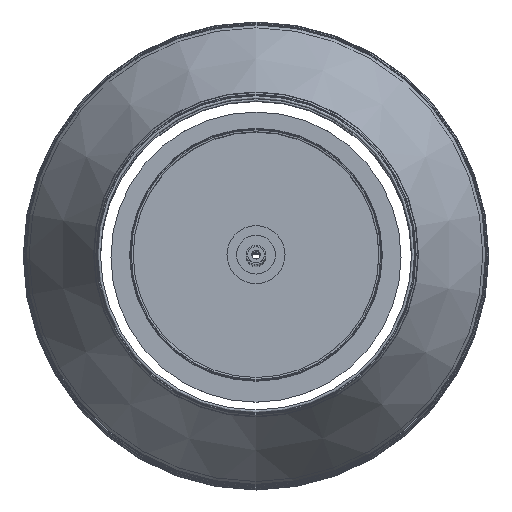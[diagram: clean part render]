
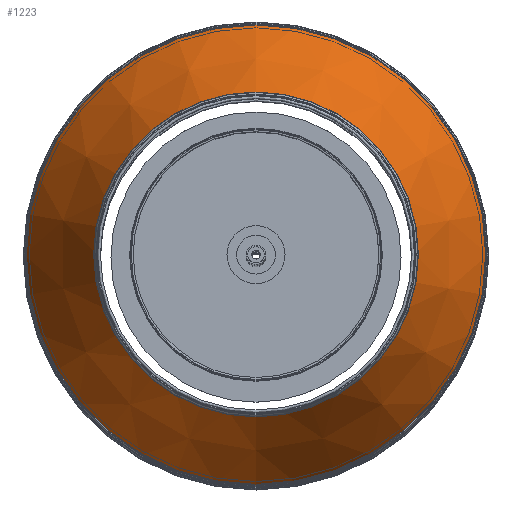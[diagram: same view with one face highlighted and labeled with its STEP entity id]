
A CAD part, top view. The second image highlights one B-rep face of the part: STEP entity #1223.
In plain terms, the highlighted conical face has half-angle 28.179 degrees and reference radius 165 mm.
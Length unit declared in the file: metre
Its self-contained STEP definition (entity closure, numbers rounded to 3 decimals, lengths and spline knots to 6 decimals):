
#1223 = ADVANCED_FACE( '', ( #3162, #3163 ), #3164, .T. );
#3162 = FACE_OUTER_BOUND( '', #5138, .T. );
#3163 = FACE_BOUND( '', #5139, .T. );
#3164 = CONICAL_SURFACE( '', #5140, 0.165, 0.492 );
#5138 = EDGE_LOOP( '', ( #7914 ) );
#5139 = EDGE_LOOP( '', ( #7915 ) );
#5140 = AXIS2_PLACEMENT_3D( '', #7916, #7917, #7918 );
#7914 = ORIENTED_EDGE( '', *, *, #8771, .F. );
#7915 = ORIENTED_EDGE( '', *, *, #8772, .T. );
#7916 = CARTESIAN_POINT( '', ( 0., 0., 0.0245 ) );
#7917 = DIRECTION( '', ( 0., 0., -1. ) );
#7918 = DIRECTION( '', ( -1., 0., 0. ) );
#8771 = EDGE_CURVE( '', #10308, #10308, #10309, .T. );
#8772 = EDGE_CURVE( '', #10310, #10310, #10311, .T. );
#10308 = VERTEX_POINT( '', #64564 );
#10309 = CIRCLE( '', #64565, 0.24 );
#10310 = VERTEX_POINT( '', #64566 );
#10311 = CIRCLE( '', #64567, 0.165 );
#64564 = CARTESIAN_POINT( '', ( -0.24, 0., -0.1155 ) );
#64565 = AXIS2_PLACEMENT_3D( '', #64713, #64714, #64715 );
#64566 = CARTESIAN_POINT( '', ( -0.165, 0., 0.0245 ) );
#64567 = AXIS2_PLACEMENT_3D( '', #64716, #64717, #64718 );
#64713 = CARTESIAN_POINT( '', ( 0., 0., -0.1155 ) );
#64714 = DIRECTION( '', ( 0., 0., -1. ) );
#64715 = DIRECTION( '', ( -1., 0., 0. ) );
#64716 = CARTESIAN_POINT( '', ( 0., 0., 0.0245 ) );
#64717 = DIRECTION( '', ( 0., 0., -1. ) );
#64718 = DIRECTION( '', ( -1., 0., 0. ) );
